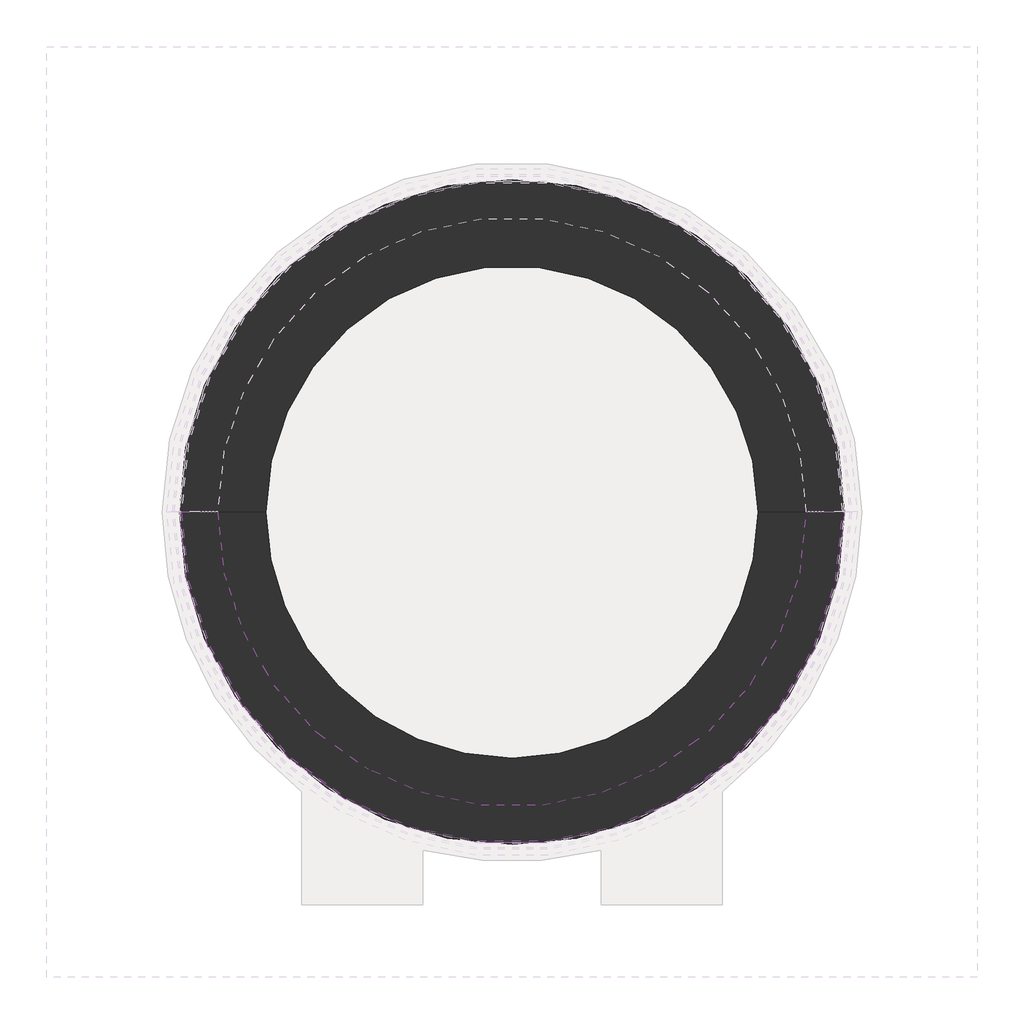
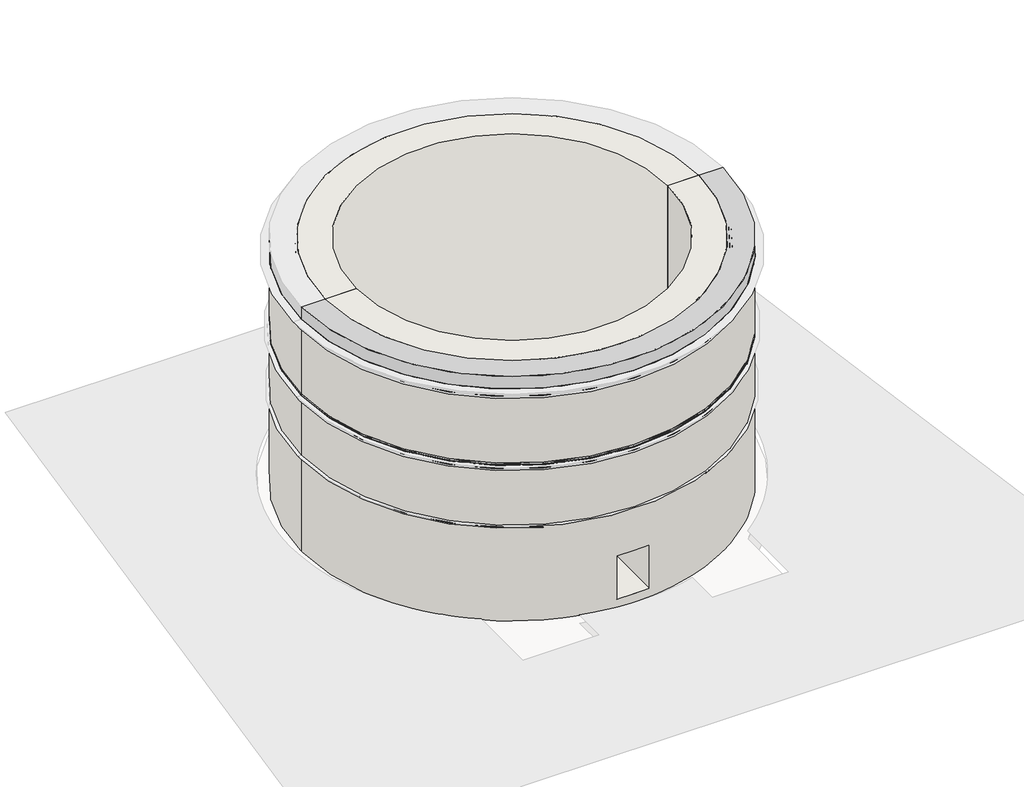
# One storey, part 1 of 2: 2 proxies, 2 walls.
"""IFC4 building model written with IfcOpenShell, lengths in millimetres."""

from ifc_helpers import new_model, si_unit, point, frame, origin, place, context, project, spatial, polyline, circle_curve, ellipse_curve, trimmed, element, save
from ifc_brep_helpers import plane_surface, cylinder_surface, revolved_surface, advanced_brep

model = new_model("IFC4")

# Units and contexts
model_context = context("Model", 3, world=origin())
ifc_project = project(units=[si_unit("LENGTHUNIT", "METRE", prefix="MILLI")], contexts=[model_context])

# Site, building, storey
site = spatial("IfcSite", under=ifc_project)
building = spatial("IfcBuilding", under=site)
storey = spatial("IfcBuildingStorey", under=building, Name="T.O. Footing", Elevation=-1219.2)

# Proxies
placement = place(None, origin())
element("IfcBuildingElementProxy", 1, Name="Reveal", ObjectType="Reveal", at=placement, inside=storey, context=model_context, shape_type="AdvancedBrep", body=[
    advanced_brep(
    [(-24997.5517732, 2019.2411242, 33223.2), (29968.0482268, 2019.2411242, 33223.2), (29968.0482268, 2019.2411242, 32918.4), (-24997.5517732, 2019.2411242, 32918.4), (-24692.7517732, 2019.2411242, 33223.2), (29663.2482268, 2019.2411242, 33223.2), (-24692.7517732, 2019.2411242, 33528.0), (29663.2482268, 2019.2411242, 33528.0), (-24387.9517732, 2019.2411242, 33528.0), (29358.4482268, 2019.2411242, 33528.0), (-24387.9517732, 2019.2411242, 33832.8), (29358.4482268, 2019.2411242, 33832.8), (-24083.1517732, 2019.2411242, 33832.8), (29053.6482268, 2019.2411242, 33832.8), (-24083.1517732, 2019.2411242, 34137.6), (29053.6482268, 2019.2411242, 34137.6), (-23778.3517732, 2019.2411242, 34137.6), (28748.8482268, 2019.2411242, 34137.6), (-23778.3517732, 2019.2411242, 34442.4), (28748.8482268, 2019.2411242, 34442.4), (-23473.5517732, 2019.2411242, 34442.4), (28444.0482268, 2019.2411242, 34442.4), (-23473.5517732, 2019.2411242, 34747.2), (28444.0482268, 2019.2411242, 34747.2), (-26826.3517732, 2019.2411242, 34747.2), (31796.8482268, 2019.2411242, 34747.2), (-26826.3517732, 2019.2411242, 32918.4), (31796.8482268, 2019.2411242, 32918.4)],
    [
        (0, 1, circle_curve(frame((2485.2482268, 2019.2411242, 33223.2), z_axis=(0.0, 0.0, 1.0), x_axis=(1.0, 0.0, 0.0)), 27482.8)),
        (1, 2),
        (2, 3, circle_curve(frame((2485.2482268, 2019.2411242, 32918.4), z_axis=(0.0, 0.0, -1.0), x_axis=(1.0, 0.0, 0.0)), 27482.8)),
        (3, 0),
        (4, 5, circle_curve(frame((2485.2482268, 2019.2411242, 33223.2), z_axis=(0.0, 0.0, 1.0), x_axis=(1.0, 0.0, 0.0)), 27178.0)),
        (5, 1),
        (0, 4),
        (6, 7, circle_curve(frame((2485.2482268, 2019.2411242, 33528.0), z_axis=(0.0, 0.0, 1.0), x_axis=(1.0, 0.0, 0.0)), 27178.0)),
        (7, 5),
        (4, 6),
        (8, 9, circle_curve(frame((2485.2482268, 2019.2411242, 33528.0), z_axis=(0.0, 0.0, 1.0), x_axis=(1.0, 0.0, 0.0)), 26873.2)),
        (9, 7),
        (6, 8),
        (10, 11, circle_curve(frame((2485.2482268, 2019.2411242, 33832.8), z_axis=(0.0, 0.0, 1.0), x_axis=(1.0, 0.0, 0.0)), 26873.2)),
        (11, 9),
        (8, 10),
        (12, 13, circle_curve(frame((2485.2482268, 2019.2411242, 33832.8), z_axis=(0.0, 0.0, 1.0), x_axis=(1.0, 0.0, 0.0)), 26568.4)),
        (13, 11),
        (10, 12),
        (14, 15, circle_curve(frame((2485.2482268, 2019.2411242, 34137.6), z_axis=(0.0, 0.0, 1.0), x_axis=(1.0, 0.0, 0.0)), 26568.4)),
        (15, 13),
        (12, 14),
        (16, 17, circle_curve(frame((2485.2482268, 2019.2411242, 34137.6), z_axis=(0.0, 0.0, 1.0), x_axis=(1.0, 0.0, 0.0)), 26263.6)),
        (17, 15),
        (14, 16),
        (18, 19, circle_curve(frame((2485.2482268, 2019.2411242, 34442.4), z_axis=(0.0, 0.0, 1.0), x_axis=(1.0, 0.0, 0.0)), 26263.6)),
        (19, 17),
        (16, 18),
        (20, 21, circle_curve(frame((2485.2482268, 2019.2411242, 34442.4), z_axis=(0.0, 0.0, 1.0), x_axis=(1.0, 0.0, 0.0)), 25958.8)),
        (21, 19),
        (18, 20),
        (22, 23, circle_curve(frame((2485.2482268, 2019.2411242, 34747.2), z_axis=(0.0, 0.0, 1.0), x_axis=(1.0, 0.0, 0.0)), 25958.8)),
        (23, 21),
        (20, 22),
        (24, 25, circle_curve(frame((2485.2482268, 2019.2411242, 34747.2), z_axis=(0.0, 0.0, 1.0), x_axis=(1.0, 0.0, 0.0)), 29311.6)),
        (25, 23),
        (22, 24),
        (26, 27, circle_curve(frame((2485.2482268, 2019.2411242, 32918.4), z_axis=(0.0, 0.0, 1.0), x_axis=(1.0, 0.0, 0.0)), 29311.6)),
        (27, 25),
        (24, 26),
        (2, 27),
        (26, 3),
    ],
    [
        revolved_surface(polyline([(29968.048226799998, 2019.2411242, 32918.4), (29968.048226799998, 2019.2411242, 33223.2)]), (2485.2482268, 2019.2411242, 34747.2), (0.0, 0.0, -1.0)),
        plane_surface(frame((2485.2482268, 2019.2411242, 33223.2), z_axis=(0.0, 0.0, -1.0), x_axis=(1.0, 0.0, 0.0))),
        revolved_surface(polyline([(29663.2482268, 2019.2411242, 33223.2), (29663.2482268, 2019.2411242, 33528.0)]), (2485.2482268, 2019.2411242, 34747.2), (0.0, 0.0, -1.0)),
        plane_surface(frame((2485.2482268, 2019.2411242, 33528.0), z_axis=(0.0, 0.0, -1.0), x_axis=(1.0, 0.0, 0.0))),
        revolved_surface(polyline([(29358.4482268, 2019.2411242, 33528.0), (29358.4482268, 2019.2411242, 33832.8)]), (2485.2482268, 2019.2411242, 34747.2), (0.0, 0.0, -1.0)),
        plane_surface(frame((2485.2482268, 2019.2411242, 33832.8), z_axis=(0.0, 0.0, -1.0), x_axis=(1.0, 0.0, 0.0))),
        revolved_surface(polyline([(29053.6482268, 2019.2411242, 33832.8), (29053.6482268, 2019.2411242, 34137.6)]), (2485.2482268, 2019.2411242, 34747.2), (0.0, 0.0, -1.0)),
        plane_surface(frame((2485.2482268, 2019.2411242, 34137.6), z_axis=(0.0, 0.0, -1.0), x_axis=(1.0, 0.0, 0.0))),
        revolved_surface(polyline([(28748.848226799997, 2019.2411242, 34137.6), (28748.848226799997, 2019.2411242, 34442.4)]), (2485.2482268, 2019.2411242, 34747.2), (0.0, 0.0, -1.0)),
        plane_surface(frame((2485.2482268, 2019.2411242, 34442.4), z_axis=(0.0, 0.0, -1.0), x_axis=(1.0, 0.0, 0.0))),
        revolved_surface(polyline([(28444.048226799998, 2019.2411242, 34442.4), (28444.048226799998, 2019.2411242, 34747.2)]), (2485.2482268, 2019.2411242, 34747.2), (0.0, 0.0, -1.0)),
        plane_surface(frame((2485.2482268, 2019.2411242, 34747.2), z_axis=(0.0, 0.0, 1.0), x_axis=(1.0, 0.0, 0.0))),
        cylinder_surface(frame((2485.2482268, 2019.2411242, 34747.2), z_axis=(0.0, 0.0, -1.0), x_axis=(1.0, 0.0, 0.0)), 29311.6),
        plane_surface(frame((2485.2482268, 2019.2411242, 32918.4), z_axis=(0.0, 0.0, -1.0), x_axis=(1.0, 0.0, 0.0))),
        plane_surface(frame((31796.8482268, 2019.2411242, 34442.4), z_axis=(0.0, 1.0, 0.0), x_axis=(1.0, 0.0, 0.0))),
        plane_surface(frame((-26826.3517732, 2019.2411242, 35052.0), z_axis=(0.0, 1.0, 0.0), x_axis=(1.0, 0.0, 0.0))),
    ],
    [
        (0, [[1, 2, 3, 4]]),
        (1, [[5, 6, -1, 7]]),
        (2, [[8, 9, -5, 10]]),
        (3, [[11, 12, -8, 13]]),
        (4, [[14, 15, -11, 16]]),
        (5, [[17, 18, -14, 19]]),
        (6, [[20, 21, -17, 22]]),
        (7, [[23, 24, -20, 25]]),
        (8, [[26, 27, -23, 28]]),
        (9, [[29, 30, -26, 31]]),
        (10, [[32, 33, -29, 34]]),
        (11, [[35, 36, -32, 37]]),
        (12, [[38, 39, -35, 40]]),
        (13, [[-3, 41, -38, 42]]),
        (14, [[-2, -6, -9, -12, -15, -18, -21, -24, -27, -30, -33, -36, -39, -41]]),
        (15, [[-42, -40, -37, -34, -31, -28, -25, -22, -19, -16, -13, -10, -7, -4]]),
    ],
),
])
element("IfcBuildingElementProxy", 2, Name="Upper Reveal", ObjectType="Upper Reveal", at=placement, inside=storey, context=model_context, shape_type="AdvancedBrep", body=[
    advanced_brep(
    [(-26794.6017732, 2019.2411242, 21691.6), (31765.0982268, 2019.2411242, 21691.6), (31796.8482268, 2019.2411242, 21691.6), (-26826.3517732, 2019.2411242, 21691.6), (-26705.7017732, 2019.2411242, 21691.6), (31676.1982268, 2019.2411242, 21691.6), (-26673.9517732, 2019.2411242, 21691.6), (31644.4482268, 2019.2411242, 21691.6), (-26673.9517732, 2019.2411242, 21996.4), (31644.4482268, 2019.2411242, 21996.4), (-26826.3517732, 2019.2411242, 21996.4), (31796.8482268, 2019.2411242, 21996.4)],
    [
        (0, 1, circle_curve(frame((2485.2482268, 2019.2411242, 21691.6), z_axis=(0.0, 0.0, 1.0), x_axis=(1.0, 0.0, 0.0)), 29279.85)),
        (1, 2, circle_curve(frame((31780.9732268, 2019.2411242, 21684.3497601), z_axis=(0.0, 1.0, 0.0), x_axis=(-1.0, 0.0, 0.0)), 17.4522664)),
        (2, 3, circle_curve(frame((2485.2482268, 2019.2411242, 21691.6), z_axis=(0.0, 0.0, -1.0), x_axis=(1.0, 0.0, 0.0)), 29311.6)),
        (3, 0, circle_curve(frame((-26810.4767732, 2019.2411242, 21684.3497601), z_axis=(0.0, 1.0, 0.0), x_axis=(1.0, 0.0, 0.0)), 17.4522664)),
        (4, 5, circle_curve(frame((2485.2482268, 2019.2411242, 21691.6), z_axis=(0.0, 0.0, 1.0), x_axis=(1.0, 0.0, 0.0)), 29190.95)),
        (5, 1),
        (0, 4),
        (6, 7, circle_curve(frame((2485.2482268, 2019.2411242, 21691.6), z_axis=(0.0, 0.0, 1.0), x_axis=(1.0, 0.0, 0.0)), 29159.2)),
        (7, 5, circle_curve(frame((31660.3232268, 2019.2411242, 21683.4377871), z_axis=(0.0, 1.0, 0.0), x_axis=(-1.0, 0.0, 0.0)), 17.8504158)),
        (4, 6, circle_curve(frame((-26689.8267732, 2019.2411242, 21683.4377871), z_axis=(0.0, 1.0, 0.0), x_axis=(1.0, 0.0, 0.0)), 17.8504158)),
        (8, 9, circle_curve(frame((2485.2482268, 2019.2411242, 21996.4), z_axis=(0.0, 0.0, 1.0), x_axis=(1.0, 0.0, 0.0)), 29159.2)),
        (9, 7),
        (6, 8),
        (10, 11, circle_curve(frame((2485.2482268, 2019.2411242, 21996.4), z_axis=(0.0, 0.0, 1.0), x_axis=(1.0, 0.0, 0.0)), 29311.6)),
        (11, 9),
        (8, 10),
        (2, 11),
        (10, 3),
    ],
    [
        revolved_surface(trimmed(ellipse_curve(frame((31780.9732268, 2019.2411242, 21684.3497601), z_axis=(0.0, -1.0, 0.0), x_axis=(-1.0, 0.0, 0.0)), 17.4522664, 17.4522664), [point((31796.8482268, 2019.2411242, 21691.6))], [point((31765.0982268, 2019.2411242, 21691.6))], True, "CARTESIAN"), (2485.2482268, 2019.2411242, 21691.6), (0.0, 0.0, -1.0)),
        plane_surface(frame((2485.2482268, 2019.2411242, 21691.6), z_axis=(0.0, 0.0, -1.0), x_axis=(1.0, 0.0, 0.0))),
        revolved_surface(trimmed(ellipse_curve(frame((31660.3232268, 2019.2411242, 21683.4377871), z_axis=(0.0, -1.0, 0.0), x_axis=(-1.0, 0.0, 0.0)), 17.8504158, 17.8504158), [point((31676.1982268, 2019.2411242, 21691.6))], [point((31644.4482268, 2019.2411242, 21691.6))], True, "CARTESIAN"), (2485.2482268, 2019.2411242, 21691.6), (0.0, 0.0, -1.0)),
        revolved_surface(polyline([(31644.4482268, 2019.2411242, 21691.6), (31644.4482268, 2019.2411242, 21996.4)]), (2485.2482268, 2019.2411242, 21691.6), (0.0, 0.0, -1.0)),
        plane_surface(frame((2485.2482268, 2019.2411242, 21996.4), z_axis=(0.0, 0.0, 1.0), x_axis=(1.0, 0.0, 0.0))),
        cylinder_surface(frame((2485.2482268, 2019.2411242, 21691.6), z_axis=(0.0, 0.0, -1.0), x_axis=(1.0, 0.0, 0.0)), 29311.6),
        plane_surface(frame((31796.8482268, 2019.2411242, 21386.8), z_axis=(0.0, 1.0, 0.0), x_axis=(1.0, 0.0, 0.0))),
        plane_surface(frame((-26826.3517732, 2019.2411242, 21996.4), z_axis=(0.0, 1.0, 0.0), x_axis=(1.0, 0.0, 0.0))),
    ],
    [
        (0, [[1, 2, 3, 4]]),
        (1, [[5, 6, -1, 7]]),
        (2, [[8, 9, -5, 10]]),
        (3, [[11, 12, -8, 13]]),
        (4, [[14, 15, -11, 16]]),
        (5, [[-3, 17, -14, 18]]),
        (6, [[-2, -6, -9, -12, -15, -17]]),
        (7, [[-18, -16, -13, -10, -7, -4]]),
    ],
),
])

# Walls
element("IfcWall", 3, ObjectType="Pantheon Walls 25'", at=placement, inside=storey, context=model_context, shape_type="AdvancedBrep", body=[
    advanced_brep(
    [(-19206.3517732, 2019.2411242, 34747.2), (24176.8482268, 2019.2411242, 34747.2), (28444.0482268, 2019.2411242, 34747.2), (-23473.5517732, 2019.2411242, 34747.2), (24176.8482268, 2019.2411242, -1219.2), (-19206.3517732, 2019.2411242, -1219.2), (-26826.3517732, 2019.2411242, -1219.2), (31796.8482268, 2019.2411242, -1219.2), (31796.8482268, 2019.2411242, 12496.8), (31796.8482268, 2019.2411242, 12954.0), (31796.8482268, 2019.2411242, 21107.4), (31796.8482268, 2019.2411242, 21691.6), (31765.0982268, 2019.2411242, 21691.6), (31676.1982268, 2019.2411242, 21691.6), (31644.4482268, 2019.2411242, 21691.6), (31644.4482268, 2019.2411242, 21996.4), (31796.8482268, 2019.2411242, 21996.4), (31796.8482268, 2019.2411242, 31699.2), (31796.8482268, 2019.2411242, 32918.4), (29968.0482268, 2019.2411242, 32918.4), (29968.0482268, 2019.2411242, 33223.2), (29663.2482268, 2019.2411242, 33223.2), (29663.2482268, 2019.2411242, 33528.0), (29358.4482268, 2019.2411242, 33528.0), (29358.4482268, 2019.2411242, 33832.8), (29053.6482268, 2019.2411242, 33832.8), (29053.6482268, 2019.2411242, 34137.6), (28748.8482268, 2019.2411242, 34137.6), (28748.8482268, 2019.2411242, 34442.4), (28444.0482268, 2019.2411242, 34442.4), (-26826.3517732, 2019.2411242, 12496.8), (-26826.3517732, 2019.2411242, 12954.0), (-26826.3517732, 2019.2411242, 21107.4), (-26826.3517732, 2019.2411242, 21691.6), (-26826.3517732, 2019.2411242, 32918.4), (-26826.3517732, 2019.2411242, 21996.4), (-26826.3517732, 2019.2411242, 31699.2), (-23473.5517732, 2019.2411242, 34442.4), (-23778.3517732, 2019.2411242, 34442.4), (-23778.3517732, 2019.2411242, 34137.6), (-24083.1517732, 2019.2411242, 34137.6), (-24083.1517732, 2019.2411242, 33832.8), (-24387.9517732, 2019.2411242, 33832.8), (-24387.9517732, 2019.2411242, 33528.0), (-24692.7517732, 2019.2411242, 33528.0), (-24692.7517732, 2019.2411242, 33223.2), (-24997.5517732, 2019.2411242, 33223.2), (-24997.5517732, 2019.2411242, 32918.4), (-26673.9517732, 2019.2411242, 21996.4), (-26673.9517732, 2019.2411242, 21691.6), (-26705.7017732, 2019.2411242, 21691.6), (-26794.6017732, 2019.2411242, 21691.6)],
    [
        (0, 1, circle_curve(frame((2485.2482268, 2019.2411242, 34747.2), z_axis=(0.0, 0.0, -1.0), x_axis=(1.0, 0.0, 0.0)), 21691.6)),
        (1, 2),
        (2, 3, circle_curve(frame((2485.2482268, 2019.2411242, 34747.2), z_axis=(0.0, 0.0, 1.0), x_axis=(1.0, 0.0, 0.0)), 25958.8)),
        (3, 0),
        (4, 5, circle_curve(frame((2485.2482268, 2019.2411242, -1219.2), z_axis=(0.0, 0.0, 1.0), x_axis=(1.0, 0.0, 0.0)), 21691.6)),
        (5, 6),
        (6, 7, circle_curve(frame((2485.2482268, 2019.2411242, -1219.2), z_axis=(0.0, 0.0, -1.0), x_axis=(1.0, 0.0, 0.0)), 29311.6)),
        (7, 4),
        (0, 5),
        (4, 1),
        (7, 8),
        (8, 9),
        (9, 10),
        (10, 11),
        (11, 12, circle_curve(frame((31780.9732268, 2019.2411242, 21684.3497601), z_axis=(0.0, -1.0, 0.0), x_axis=(-1.0, 0.0, 0.0)), 17.4522664)),
        (12, 13),
        (13, 14, circle_curve(frame((31660.3232268, 2019.2411242, 21683.4377871), z_axis=(0.0, -1.0, 0.0), x_axis=(-1.0, 0.0, 0.0)), 17.8504158)),
        (14, 15),
        (15, 16),
        (16, 17),
        (17, 18),
        (18, 19),
        (19, 20),
        (20, 21),
        (21, 22),
        (22, 23),
        (23, 24),
        (24, 25),
        (25, 26),
        (26, 27),
        (27, 28),
        (28, 29),
        (29, 2),
        (6, 30),
        (30, 31),
        (31, 32),
        (32, 33),
        (33, 11, circle_curve(frame((2485.2482268, 2019.2411242, 21691.6), z_axis=(0.0, 0.0, -1.0), x_axis=(1.0, 0.0, 0.0)), 29311.6)),
        (34, 18, circle_curve(frame((2485.2482268, 2019.2411242, 32918.4), z_axis=(0.0, 0.0, -1.0), x_axis=(1.0, 0.0, 0.0)), 29311.6)),
        (16, 35, circle_curve(frame((2485.2482268, 2019.2411242, 21996.4), z_axis=(0.0, 0.0, 1.0), x_axis=(1.0, 0.0, 0.0)), 29311.6)),
        (35, 36),
        (36, 34),
        (3, 37),
        (37, 38),
        (38, 39),
        (39, 40),
        (40, 41),
        (41, 42),
        (42, 43),
        (43, 44),
        (44, 45),
        (45, 46),
        (46, 47),
        (47, 34),
        (35, 48),
        (48, 49),
        (49, 50, circle_curve(frame((-26689.8267732, 2019.2411242, 21683.4377871), z_axis=(0.0, -1.0, 0.0), x_axis=(1.0, 0.0, 0.0)), 17.8504158)),
        (50, 51),
        (51, 33, circle_curve(frame((-26810.4767732, 2019.2411242, 21684.3497601), z_axis=(0.0, -1.0, 0.0), x_axis=(1.0, 0.0, 0.0)), 17.4522664)),
        (47, 19, circle_curve(frame((2485.2482268, 2019.2411242, 32918.4), z_axis=(0.0, 0.0, -1.0), x_axis=(1.0, 0.0, 0.0)), 27482.8)),
        (37, 29, circle_curve(frame((2485.2482268, 2019.2411242, 34442.4), z_axis=(0.0, 0.0, -1.0), x_axis=(1.0, 0.0, 0.0)), 25958.8)),
        (28, 38, circle_curve(frame((2485.2482268, 2019.2411242, 34442.4), z_axis=(0.0, 0.0, 1.0), x_axis=(1.0, 0.0, 0.0)), 26263.6)),
        (39, 27, circle_curve(frame((2485.2482268, 2019.2411242, 34137.6), z_axis=(0.0, 0.0, -1.0), x_axis=(1.0, 0.0, 0.0)), 26263.6)),
        (26, 40, circle_curve(frame((2485.2482268, 2019.2411242, 34137.6), z_axis=(0.0, 0.0, 1.0), x_axis=(1.0, 0.0, 0.0)), 26568.4)),
        (41, 25, circle_curve(frame((2485.2482268, 2019.2411242, 33832.8), z_axis=(0.0, 0.0, -1.0), x_axis=(1.0, 0.0, 0.0)), 26568.4)),
        (24, 42, circle_curve(frame((2485.2482268, 2019.2411242, 33832.8), z_axis=(0.0, 0.0, 1.0), x_axis=(1.0, 0.0, 0.0)), 26873.2)),
        (43, 23, circle_curve(frame((2485.2482268, 2019.2411242, 33528.0), z_axis=(0.0, 0.0, -1.0), x_axis=(1.0, 0.0, 0.0)), 26873.2)),
        (22, 44, circle_curve(frame((2485.2482268, 2019.2411242, 33528.0), z_axis=(0.0, 0.0, 1.0), x_axis=(1.0, 0.0, 0.0)), 27178.0)),
        (45, 21, circle_curve(frame((2485.2482268, 2019.2411242, 33223.2), z_axis=(0.0, 0.0, -1.0), x_axis=(1.0, 0.0, 0.0)), 27178.0)),
        (20, 46, circle_curve(frame((2485.2482268, 2019.2411242, 33223.2), z_axis=(0.0, 0.0, 1.0), x_axis=(1.0, 0.0, 0.0)), 27482.8)),
        (15, 48, circle_curve(frame((2485.2482268, 2019.2411242, 21996.4), z_axis=(0.0, 0.0, 1.0), x_axis=(1.0, 0.0, 0.0)), 29159.2)),
        (50, 13, circle_curve(frame((2485.2482268, 2019.2411242, 21691.6), z_axis=(0.0, 0.0, -1.0), x_axis=(1.0, 0.0, 0.0)), 29190.95)),
        (12, 51, circle_curve(frame((2485.2482268, 2019.2411242, 21691.6), z_axis=(0.0, 0.0, 1.0), x_axis=(1.0, 0.0, 0.0)), 29279.85)),
        (14, 49, circle_curve(frame((2485.2482268, 2019.2411242, 21691.6), z_axis=(0.0, 0.0, 1.0), x_axis=(1.0, 0.0, 0.0)), 29159.2)),
    ],
    [
        plane_surface(frame((24176.8482268, 2019.2411242, 34747.2), z_axis=(0.0, 0.0, 1.0), x_axis=(0.0, -1.0, 0.0))),
        plane_surface(frame((24176.8482268, 2019.2411242, -1219.2), z_axis=(0.0, 0.0, -1.0), x_axis=(0.0, 1.0, 0.0))),
        revolved_surface(polyline([(24176.848226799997, 2019.2411242, -1219.2), (24176.848226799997, 2019.2411242, 34747.2)]), (2485.2482268, 2019.2411242, -1219.2), (0.0, 0.0, -1.0)),
        plane_surface(frame((24176.8482268, 2019.2411242, 34747.2), z_axis=(0.0, -1.0, 0.0), x_axis=(0.0, 0.0, -1.0))),
        cylinder_surface(frame((2485.2482268, 2019.2411242, -1219.2), z_axis=(0.0, 0.0, 1.0), x_axis=(1.0, 0.0, 0.0)), 29311.6),
        plane_surface(frame((-26826.3517732, 2019.2411242, 34747.2), z_axis=(0.0, -1.0, 0.0), x_axis=(0.0, 0.0, -1.0))),
        plane_surface(frame((2485.2482268, 2019.2411242, 32918.4), z_axis=(0.0, 0.0, 1.0), x_axis=(0.15643446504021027, -0.987688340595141, 0.0))),
        plane_surface(frame((2485.2482268, 2019.2411242, 34442.4), z_axis=(0.0, 0.0, 1.0), x_axis=(0.15643446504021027, -0.987688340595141, 0.0))),
        plane_surface(frame((2485.2482268, 2019.2411242, 34137.6), z_axis=(0.0, 0.0, 1.0), x_axis=(0.15643446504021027, -0.987688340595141, 0.0))),
        plane_surface(frame((2485.2482268, 2019.2411242, 33832.8), z_axis=(0.0, 0.0, 1.0), x_axis=(0.15643446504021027, -0.987688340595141, 0.0))),
        plane_surface(frame((2485.2482268, 2019.2411242, 33528.0), z_axis=(0.0, 0.0, 1.0), x_axis=(0.15643446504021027, -0.987688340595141, 0.0))),
        plane_surface(frame((2485.2482268, 2019.2411242, 33223.2), z_axis=(0.0, 0.0, 1.0), x_axis=(0.15643446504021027, -0.987688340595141, 0.0))),
        cylinder_surface(frame((2485.2482268, 2019.2411242, 34747.2), z_axis=(0.0, 0.0, 1.0), x_axis=(1.0, 0.0, 0.0)), 25958.8),
        cylinder_surface(frame((2485.2482268, 2019.2411242, 34747.2), z_axis=(0.0, 0.0, 1.0), x_axis=(1.0, 0.0, 0.0)), 26263.6),
        cylinder_surface(frame((2485.2482268, 2019.2411242, 34747.2), z_axis=(0.0, 0.0, 1.0), x_axis=(1.0, 0.0, 0.0)), 26568.4),
        cylinder_surface(frame((2485.2482268, 2019.2411242, 34747.2), z_axis=(0.0, 0.0, 1.0), x_axis=(1.0, 0.0, 0.0)), 26873.2),
        cylinder_surface(frame((2485.2482268, 2019.2411242, 34747.2), z_axis=(0.0, 0.0, 1.0), x_axis=(1.0, 0.0, 0.0)), 27178.0),
        cylinder_surface(frame((2485.2482268, 2019.2411242, 34747.2), z_axis=(0.0, 0.0, 1.0), x_axis=(1.0, 0.0, 0.0)), 27482.8),
        plane_surface(frame((2485.2482268, 2019.2411242, 21996.4), z_axis=(0.0, 0.0, -1.0), x_axis=(0.15643446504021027, -0.987688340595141, 0.0))),
        plane_surface(frame((2485.2482268, 2019.2411242, 21691.6), z_axis=(0.0, 0.0, 1.0), x_axis=(0.15643446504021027, -0.987688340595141, 0.0))),
        cylinder_surface(frame((2485.2482268, 2019.2411242, 21691.6), z_axis=(0.0, 0.0, 1.0), x_axis=(1.0, 0.0, 0.0)), 29159.2),
        revolved_surface(trimmed(ellipse_curve(frame((31660.3232268, 2019.2411242, 21683.4377871), z_axis=(0.0, -1.0, 0.0), x_axis=(-1.0, 0.0, 0.0)), 17.8504158, 17.8504158), [point((31676.1982268, 2019.2411242, 21691.6))], [point((31644.4482268, 2019.2411242, 21691.6))], True, "CARTESIAN"), (2485.2482268, 2019.2411242, 21691.6), (0.0, 0.0, 1.0)),
        revolved_surface(trimmed(ellipse_curve(frame((31780.9732268, 2019.2411242, 21684.3497601), z_axis=(0.0, -1.0, 0.0), x_axis=(-1.0, 0.0, 0.0)), 17.4522664, 17.4522664), [point((31796.8482268, 2019.2411242, 21691.6))], [point((31765.0982268, 2019.2411242, 21691.6))], True, "CARTESIAN"), (2485.2482268, 2019.2411242, 21691.6), (0.0, 0.0, 1.0)),
    ],
    [
        (0, [[1, 2, 3, 4]]),
        (1, [[5, 6, 7, 8]]),
        (2, [[-1, 9, -5, 10]]),
        (3, [[-8, 11, 12, 13, 14, 15, 16, 17, 18, 19, 20, 21, 22, 23, 24, 25, 26, 27, 28, 29, 30, 31, 32, 33, -2, -10]]),
        (4, [[-7, 34, 35, 36, 37, 38, -14, -13, -12, -11]]),
        (4, [[39, -21, -20, 40, 41, 42]]),
        (5, [[-6, -9, -4, 43, 44, 45, 46, 47, 48, 49, 50, 51, 52, 53, 54, -42, -41, 55, 56, 57, 58, 59, -37, -36, -35, -34]]),
        (6, [[60, -22, -39, -54]]),
        (7, [[61, -32, 62, -44]]),
        (8, [[63, -30, 64, -46]]),
        (9, [[65, -28, 66, -48]]),
        (10, [[67, -26, 68, -50]]),
        (11, [[69, -24, 70, -52]]),
        (12, [[-61, -43, -3, -33]]),
        (13, [[-62, -31, -63, -45]]),
        (14, [[-64, -29, -65, -47]]),
        (15, [[-66, -27, -67, -49]]),
        (16, [[-68, -25, -69, -51]]),
        (17, [[-60, -53, -70, -23]]),
        (18, [[71, -55, -40, -19]]),
        (19, [[72, -16, 73, -58]]),
        (20, [[-71, -18, 74, -56]]),
        (21, [[-72, -57, -74, -17]]),
        (22, [[-73, -15, -38, -59]]),
    ],
),
])
element("IfcWall", 4, ObjectType="Pantheon Walls 25'", at=placement, inside=storey, context=model_context, shape_type="AdvancedBrep", body=[
    advanced_brep(
    [(24176.8482268, 2019.2411242, 34747.2), (-19206.3517732, 2019.2411242, 34747.2), (-23473.5517732, 2019.2411242, 34747.2), (28444.0482268, 2019.2411242, 34747.2), (31796.8482268, 2019.2411242, -1219.2), (-26826.3517732, 2019.2411242, -1219.2), (-19206.3517732, 2019.2411242, -1219.2), (24176.8482268, 2019.2411242, -1219.2), (31796.8482268, 2019.2411242, 12496.8), (31796.8482268, 2019.2411242, 12954.0), (31796.8482268, 2019.2411242, 21107.4), (31796.8482268, 2019.2411242, 21691.6), (-26826.3517732, 2019.2411242, 21691.6), (-26826.3517732, 2019.2411242, 21107.4), (-26826.3517732, 2019.2411242, 12954.0), (-26826.3517732, 2019.2411242, 12496.8), (151.6160481, -27199.3155721, 0.0), (151.6160481, -27199.3155721, 6400.8), (4723.6099737, -27206.7683751, 6400.8), (4723.6099737, -27206.7683751, 0.0), (31796.8482268, 2019.2411242, 32918.4), (19477.8482268, -21864.256103, 32918.4), (18868.2482268, -22286.4620247, 32918.4), (-13897.7513111, -22286.4623362, 32918.4), (-14507.3512191, -21864.2564972, 32918.4), (-26826.3517732, 2019.2411242, 32918.4), (-26826.3517732, 2019.2411242, 31699.2), (-26826.3517732, 2019.2411242, 21996.4), (31796.8482268, 2019.2411242, 21996.4), (31796.8482268, 2019.2411242, 31699.2), (28444.0482268, 2019.2411242, 34442.4), (28748.8482268, 2019.2411242, 34442.4), (28748.8482268, 2019.2411242, 34137.6), (29053.6482268, 2019.2411242, 34137.6), (29053.6482268, 2019.2411242, 33832.8), (29358.4482268, 2019.2411242, 33832.8), (29358.4482268, 2019.2411242, 33528.0), (29663.2482268, 2019.2411242, 33528.0), (29663.2482268, 2019.2411242, 33223.2), (29968.0482268, 2019.2411242, 33223.2), (29968.0482268, 2019.2411242, 32918.4), (31644.4482268, 2019.2411242, 21996.4), (31644.4482268, 2019.2411242, 21691.6), (31676.1982268, 2019.2411242, 21691.6), (31765.0982268, 2019.2411242, 21691.6), (164.0887587, -19547.8108135, 6400.8), (164.0887587, -19547.8108135, 0.0), (4736.0826843, -19555.2636165, 0.0), (4736.0826843, -19555.2636165, 6400.8), (-26794.6017732, 2019.2411242, 21691.6), (-26705.7017732, 2019.2411242, 21691.6), (-26673.9517732, 2019.2411242, 21691.6), (-26673.9517732, 2019.2411242, 21996.4), (-24997.5517732, 2019.2411242, 32918.4), (-24997.5517732, 2019.2411242, 33223.2), (-24692.7517732, 2019.2411242, 33223.2), (-24692.7517732, 2019.2411242, 33528.0), (-24387.9517732, 2019.2411242, 33528.0), (-24387.9517732, 2019.2411242, 33832.8), (-24083.1517732, 2019.2411242, 33832.8), (-24083.1517732, 2019.2411242, 34137.6), (-23778.3517732, 2019.2411242, 34137.6), (-23778.3517732, 2019.2411242, 34442.4), (-23473.5517732, 2019.2411242, 34442.4)],
    [
        (0, 1, circle_curve(frame((2485.2482268, 2019.2411242, 34747.2), z_axis=(0.0, 0.0, -1.0), x_axis=(1.0, 0.0, 0.0)), 21691.6)),
        (1, 2),
        (2, 3, circle_curve(frame((2485.2482268, 2019.2411242, 34747.2), z_axis=(0.0, 0.0, 1.0), x_axis=(1.0, 0.0, 0.0)), 25958.8)),
        (3, 0),
        (4, 5, circle_curve(frame((2485.2482268, 2019.2411242, -1219.2), z_axis=(0.0, 0.0, -1.0), x_axis=(1.0, 0.0, 0.0)), 29311.6)),
        (5, 6),
        (6, 7, circle_curve(frame((2485.2482268, 2019.2411242, -1219.2), z_axis=(0.0, 0.0, 1.0), x_axis=(1.0, 0.0, 0.0)), 21691.6)),
        (7, 4),
        (4, 8),
        (8, 9),
        (9, 10),
        (10, 11),
        (11, 12, circle_curve(frame((2485.2482268, 2019.2411242, 21691.6), z_axis=(0.0, 0.0, -1.0), x_axis=(1.0, 0.0, 0.0)), 29311.6)),
        (12, 13),
        (13, 14),
        (14, 15),
        (15, 5),
        (16, 17),
        (17, 18, circle_curve(frame((2485.2482268, 2019.2411242, 6400.8), z_axis=(0.0, 0.0, 1.0), x_axis=(1.0, 0.0, 0.0)), 29311.6)),
        (18, 19),
        (19, 16, circle_curve(frame((2485.2482268, 2019.2411242, 0.0), z_axis=(0.0, 0.0, -1.0), x_axis=(1.0, 0.0, 0.0)), 29311.6)),
        (20, 21, circle_curve(frame((2485.2482268, 2019.2411242, 32918.4), z_axis=(0.0, 0.0, -1.0), x_axis=(1.0, 0.0, 0.0)), 29311.6)),
        (21, 22, circle_curve(frame((2485.2482268, 2019.2411242, 32918.4), z_axis=(0.0, 0.0, -1.0), x_axis=(1.0, 0.0, 0.0)), 29311.6)),
        (22, 23, circle_curve(frame((2485.2482268, 2019.2411242, 32918.4), z_axis=(0.0, 0.0, -1.0), x_axis=(1.0, 0.0, 0.0)), 29311.6)),
        (23, 24, circle_curve(frame((2485.2482268, 2019.2411242, 32918.4), z_axis=(0.0, 0.0, -1.0), x_axis=(1.0, 0.0, 0.0)), 29311.6)),
        (24, 25, circle_curve(frame((2485.2482268, 2019.2411242, 32918.4), z_axis=(0.0, 0.0, -1.0), x_axis=(1.0, 0.0, 0.0)), 29311.6)),
        (25, 26),
        (26, 27),
        (27, 28, circle_curve(frame((2485.2482268, 2019.2411242, 21996.4), z_axis=(0.0, 0.0, 1.0), x_axis=(1.0, 0.0, 0.0)), 29311.6)),
        (28, 29),
        (29, 20),
        (7, 0),
        (3, 30),
        (30, 31),
        (31, 32),
        (32, 33),
        (33, 34),
        (34, 35),
        (35, 36),
        (36, 37),
        (37, 38),
        (38, 39),
        (39, 40),
        (40, 20),
        (28, 41),
        (41, 42),
        (42, 43, circle_curve(frame((31660.3232268, 2019.2411242, 21683.4377871), z_axis=(0.0, 1.0, 0.0), x_axis=(-1.0, 0.0, 0.0)), 17.8504158)),
        (43, 44),
        (44, 11, circle_curve(frame((31780.9732268, 2019.2411242, 21684.3497601), z_axis=(0.0, 1.0, 0.0), x_axis=(-1.0, 0.0, 0.0)), 17.4522664)),
        (6, 1),
        (45, 46),
        (46, 47, circle_curve(frame((2485.2482268, 2019.2411242, 0.0), z_axis=(0.0, 0.0, 1.0), x_axis=(1.0, 0.0, 0.0)), 21691.6)),
        (47, 48),
        (48, 45, circle_curve(frame((2485.2482268, 2019.2411242, 6400.8), z_axis=(0.0, 0.0, -1.0), x_axis=(1.0, 0.0, 0.0)), 21691.6)),
        (12, 49, circle_curve(frame((-26810.4767732, 2019.2411242, 21684.3497601), z_axis=(0.0, 1.0, 0.0), x_axis=(1.0, 0.0, 0.0)), 17.4522664)),
        (49, 50),
        (50, 51, circle_curve(frame((-26689.8267732, 2019.2411242, 21683.4377871), z_axis=(0.0, 1.0, 0.0), x_axis=(1.0, 0.0, 0.0)), 17.8504158)),
        (51, 52),
        (52, 27),
        (25, 53),
        (53, 54),
        (54, 55),
        (55, 56),
        (56, 57),
        (57, 58),
        (58, 59),
        (59, 60),
        (60, 61),
        (61, 62),
        (62, 63),
        (63, 2),
        (16, 46),
        (45, 17),
        (48, 18),
        (47, 19),
        (54, 39, circle_curve(frame((2485.2482268, 2019.2411242, 33223.2), z_axis=(0.0, 0.0, 1.0), x_axis=(1.0, 0.0, 0.0)), 27482.8)),
        (38, 55, circle_curve(frame((2485.2482268, 2019.2411242, 33223.2), z_axis=(0.0, 0.0, -1.0), x_axis=(1.0, 0.0, 0.0)), 27178.0)),
        (56, 37, circle_curve(frame((2485.2482268, 2019.2411242, 33528.0), z_axis=(0.0, 0.0, 1.0), x_axis=(1.0, 0.0, 0.0)), 27178.0)),
        (36, 57, circle_curve(frame((2485.2482268, 2019.2411242, 33528.0), z_axis=(0.0, 0.0, -1.0), x_axis=(1.0, 0.0, 0.0)), 26873.2)),
        (58, 35, circle_curve(frame((2485.2482268, 2019.2411242, 33832.8), z_axis=(0.0, 0.0, 1.0), x_axis=(1.0, 0.0, 0.0)), 26873.2)),
        (34, 59, circle_curve(frame((2485.2482268, 2019.2411242, 33832.8), z_axis=(0.0, 0.0, -1.0), x_axis=(1.0, 0.0, 0.0)), 26568.4)),
        (60, 33, circle_curve(frame((2485.2482268, 2019.2411242, 34137.6), z_axis=(0.0, 0.0, 1.0), x_axis=(1.0, 0.0, 0.0)), 26568.4)),
        (32, 61, circle_curve(frame((2485.2482268, 2019.2411242, 34137.6), z_axis=(0.0, 0.0, -1.0), x_axis=(1.0, 0.0, 0.0)), 26263.6)),
        (62, 31, circle_curve(frame((2485.2482268, 2019.2411242, 34442.4), z_axis=(0.0, 0.0, 1.0), x_axis=(1.0, 0.0, 0.0)), 26263.6)),
        (30, 63, circle_curve(frame((2485.2482268, 2019.2411242, 34442.4), z_axis=(0.0, 0.0, -1.0), x_axis=(1.0, 0.0, 0.0)), 25958.8)),
        (40, 53, circle_curve(frame((2485.2482268, 2019.2411242, 32918.4), z_axis=(0.0, 0.0, -1.0), x_axis=(1.0, 0.0, 0.0)), 27482.8)),
        (49, 44, circle_curve(frame((2485.2482268, 2019.2411242, 21691.6), z_axis=(0.0, 0.0, 1.0), x_axis=(1.0, 0.0, 0.0)), 29279.85)),
        (43, 50, circle_curve(frame((2485.2482268, 2019.2411242, 21691.6), z_axis=(0.0, 0.0, -1.0), x_axis=(1.0, 0.0, 0.0)), 29190.95)),
        (52, 41, circle_curve(frame((2485.2482268, 2019.2411242, 21996.4), z_axis=(0.0, 0.0, 1.0), x_axis=(1.0, 0.0, 0.0)), 29159.2)),
        (42, 51, circle_curve(frame((2485.2482268, 2019.2411242, 21691.6), z_axis=(0.0, 0.0, -1.0), x_axis=(1.0, 0.0, 0.0)), 29159.2)),
    ],
    [
        plane_surface(frame((31796.8482268, 2019.2411242, 34747.2), z_axis=(0.0, 0.0, 1.0), x_axis=(0.0, 1.0, 0.0))),
        plane_surface(frame((31796.8482268, 2019.2411242, -1219.2), z_axis=(0.0, 0.0, -1.0), x_axis=(0.0, -1.0, 0.0))),
        cylinder_surface(frame((2485.2482268, 2019.2411242, -1219.2), z_axis=(0.0, 0.0, 1.0), x_axis=(1.0, 0.0, 0.0)), 29311.6),
        plane_surface(frame((31796.8482268, 2019.2411242, 34747.2), z_axis=(0.0, 1.0, 0.0), x_axis=(0.0, 0.0, -1.0))),
        revolved_surface(polyline([(24176.848226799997, 2019.2411242, -1219.2), (24176.848226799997, 2019.2411242, 34747.2)]), (2485.2482268, 2019.2411242, -1219.2), (0.0, 0.0, -1.0)),
        plane_surface(frame((-19206.3517732, 2019.2411242, 34747.2), z_axis=(0.0, 1.0, 0.0), x_axis=(0.0, 0.0, -1.0))),
        plane_surface(frame((151.6160481, -27199.3155721, 0.0), z_axis=(0.9999986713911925, -0.0016300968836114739, 0.0), x_axis=(0.0016300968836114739, 0.9999986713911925, 0.0))),
        plane_surface(frame((151.6160481, -27199.3155721, 6400.8), z_axis=(0.0, 0.0, -1.0000000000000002), x_axis=(0.0016300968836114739, 0.9999986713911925, 0.0))),
        plane_surface(frame((4723.6099737, -27206.7683751, 6400.8), z_axis=(-0.9999986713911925, 0.0016300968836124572, 0.0), x_axis=(0.0016300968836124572, 0.9999986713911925, 0.0))),
        plane_surface(frame((4723.6099737, -27206.7683751, 0.0), z_axis=(0.0, 0.0, 1.0000000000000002), x_axis=(0.0016300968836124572, 0.9999986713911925, 0.0))),
        plane_surface(frame((2485.2482268, 2019.2411242, 33223.2), z_axis=(0.0, 0.0, 1.0000000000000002), x_axis=(0.15643446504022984, 0.987688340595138, 0.0))),
        plane_surface(frame((2485.2482268, 2019.2411242, 33528.0), z_axis=(0.0, 0.0, 1.0000000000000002), x_axis=(0.15643446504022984, 0.987688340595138, 0.0))),
        plane_surface(frame((2485.2482268, 2019.2411242, 33832.8), z_axis=(0.0, 0.0, 1.0000000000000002), x_axis=(0.15643446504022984, 0.987688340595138, 0.0))),
        plane_surface(frame((2485.2482268, 2019.2411242, 34137.6), z_axis=(0.0, 0.0, 1.0000000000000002), x_axis=(0.15643446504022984, 0.987688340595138, 0.0))),
        plane_surface(frame((2485.2482268, 2019.2411242, 34442.4), z_axis=(0.0, 0.0, 1.0000000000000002), x_axis=(0.15643446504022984, 0.987688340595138, 0.0))),
        plane_surface(frame((2485.2482268, 2019.2411242, 32918.4), z_axis=(0.0, 0.0, 1.0000000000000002), x_axis=(0.15643446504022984, 0.987688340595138, 0.0))),
        cylinder_surface(frame((2485.2482268, 2019.2411242, 34747.2), z_axis=(0.0, 0.0, -1.0), x_axis=(1.0, 0.0, 0.0)), 27482.8),
        cylinder_surface(frame((2485.2482268, 2019.2411242, 34747.2), z_axis=(0.0, 0.0, -1.0), x_axis=(1.0, 0.0, 0.0)), 27178.0),
        cylinder_surface(frame((2485.2482268, 2019.2411242, 34747.2), z_axis=(0.0, 0.0, -1.0), x_axis=(1.0, 0.0, 0.0)), 26873.2),
        cylinder_surface(frame((2485.2482268, 2019.2411242, 34747.2), z_axis=(0.0, 0.0, -1.0), x_axis=(1.0, 0.0, 0.0)), 26568.4),
        cylinder_surface(frame((2485.2482268, 2019.2411242, 34747.2), z_axis=(0.0, 0.0, -1.0), x_axis=(1.0, 0.0, 0.0)), 26263.6),
        cylinder_surface(frame((2485.2482268, 2019.2411242, 34747.2), z_axis=(0.0, 0.0, -1.0), x_axis=(1.0, 0.0, 0.0)), 25958.8),
        plane_surface(frame((2485.2482268, 2019.2411242, 21691.6), z_axis=(0.0, 0.0, 1.0000000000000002), x_axis=(0.15643446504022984, 0.987688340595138, 0.0))),
        plane_surface(frame((2485.2482268, 2019.2411242, 21996.4), z_axis=(0.0, 0.0, -1.0000000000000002), x_axis=(0.15643446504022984, 0.987688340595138, 0.0))),
        revolved_surface(trimmed(ellipse_curve(frame((31780.9732268, 2019.2411242, 21684.3497601), z_axis=(0.0, 1.0, 0.0), x_axis=(-1.0, 0.0, 0.0)), 17.4522664, 17.4522664), [point((31765.0982268, 2019.2411242, 21691.6))], [point((31796.8482268, 2019.2411242, 21691.6))], True, "CARTESIAN"), (2485.2482268, 2019.2411242, 21691.6), (0.0, 0.0, -1.0)),
        revolved_surface(trimmed(ellipse_curve(frame((31660.3232268, 2019.2411242, 21683.4377871), z_axis=(0.0, 1.0, 0.0), x_axis=(-1.0, 0.0, 0.0)), 17.8504158, 17.8504158), [point((31644.4482268, 2019.2411242, 21691.6))], [point((31676.1982268, 2019.2411242, 21691.6))], True, "CARTESIAN"), (2485.2482268, 2019.2411242, 21691.6), (0.0, 0.0, -1.0)),
        cylinder_surface(frame((2485.2482268, 2019.2411242, 21691.6), z_axis=(0.0, 0.0, -1.0), x_axis=(1.0, 0.0, 0.0)), 29159.2),
    ],
    [
        (0, [[1, 2, 3, 4]]),
        (1, [[5, 6, 7, 8]]),
        (2, [[-5, 9, 10, 11, 12, 13, 14, 15, 16, 17], [18, 19, 20, 21]]),
        (2, [[22, 23, 24, 25, 26, 27, 28, 29, 30, 31]]),
        (3, [[-8, 32, -4, 33, 34, 35, 36, 37, 38, 39, 40, 41, 42, 43, 44, -31, -30, 45, 46, 47, 48, 49, -12, -11, -10, -9]]),
        (4, [[-1, -32, -7, 50], [51, 52, 53, 54]]),
        (5, [[-6, -17, -16, -15, -14, 55, 56, 57, 58, 59, -28, -27, 60, 61, 62, 63, 64, 65, 66, 67, 68, 69, 70, 71, -2, -50]]),
        (6, [[-18, 72, -51, 73]]),
        (7, [[-19, -73, -54, 74]]),
        (8, [[-20, -74, -53, 75]]),
        (9, [[-21, -75, -52, -72]]),
        (10, [[76, -42, 77, -62]]),
        (11, [[78, -40, 79, -64]]),
        (12, [[80, -38, 81, -66]]),
        (13, [[82, -36, 83, -68]]),
        (14, [[84, -34, 85, -70]]),
        (15, [[86, -60, -26, -25, -24, -23, -22, -44]]),
        (16, [[-76, -61, -86, -43]]),
        (17, [[-77, -41, -78, -63]]),
        (18, [[-79, -39, -80, -65]]),
        (19, [[-81, -37, -82, -67]]),
        (20, [[-83, -35, -84, -69]]),
        (21, [[-85, -33, -3, -71]]),
        (22, [[87, -48, 88, -56]]),
        (23, [[89, -45, -29, -59]]),
        (24, [[-87, -55, -13, -49]]),
        (25, [[-88, -47, 90, -57]]),
        (26, [[-89, -58, -90, -46]]),
    ],
),
])

save(model, "model.ifc")
